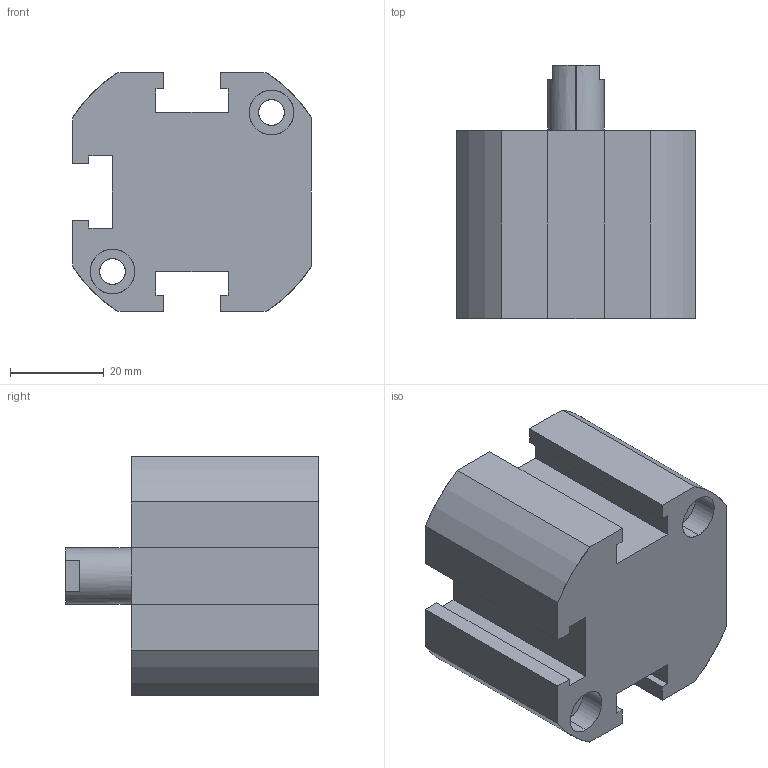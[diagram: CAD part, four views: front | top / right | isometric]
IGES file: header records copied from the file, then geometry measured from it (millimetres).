
Start section: SolidWorks IGES file using analytic representation for surfaces
Global section: file name: C:\Users\Toshiba\Desktop\XC#0-32D-10.IGS; native system: SolidWorks 2014; preprocessor: SolidWorks 2014; author: Toshiba; date: 160523.150004; units: millimetre
Bounding box: 51 x 54 x 51 mm (x, y, z)
Surface area: 17252.1 mm2 (no closed solid volume)
Topology: 0 solids, 0 shells, 91 faces, 1382 edges, 1378 vertices
Faces by surface type: revolution 46, bspline 45
